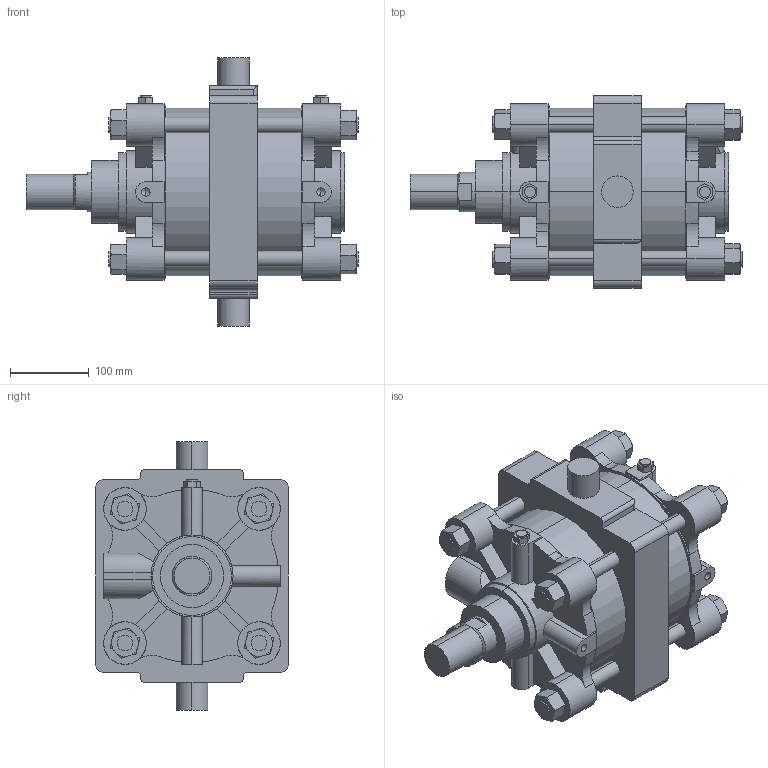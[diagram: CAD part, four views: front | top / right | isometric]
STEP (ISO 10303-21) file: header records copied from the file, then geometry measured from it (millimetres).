
FILE_DESCRIPTION (( 'STEP AP203' ), '1' );
FILE_NAME ('A##2-200#-100-T.STEP', '2016-03-31T07:01:33', ( '' ), ( '' ), 'SwSTEP 2.0', 'SolidWorks 2014', '' );
FILE_SCHEMA (( 'CONFIG_CONTROL_DESIGN' ));
Length unit declared in the file: millimetre
Products named in the file (7): A200-100; A200-T; A200-B; A200-A; A##2-200#-100-T
Assembly tree (16 placements, depth 2):
  A##2-200#-100-T
    A200-B
    A200-100
    A200-A
    (unnamed)  x8
    (unnamed)  x4
    A200-T
Bounding box: 421 x 244 x 340 mm (x, y, z)
Volume: 11628383.6 mm3; surface area: 855795.4 mm2
Topology: 16 solids, 18 shells, 426 faces, 1079 edges, 691 vertices
Faces by surface type: plane 214, cylinder 150, torus 48, cone 14
Entity records: 11042 total; most frequent: CARTESIAN_POINT 2196, DIRECTION 1746, ORIENTED_EDGE 1594, EDGE_CURVE 797, AXIS2_PLACEMENT_3D 663, VERTEX_POINT 525, LINE 420, VECTOR 420
